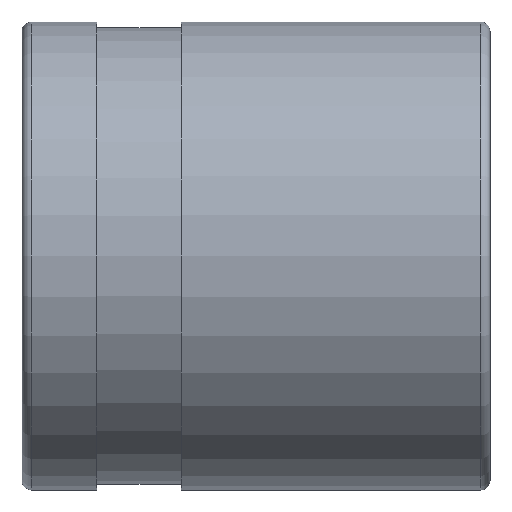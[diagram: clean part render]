
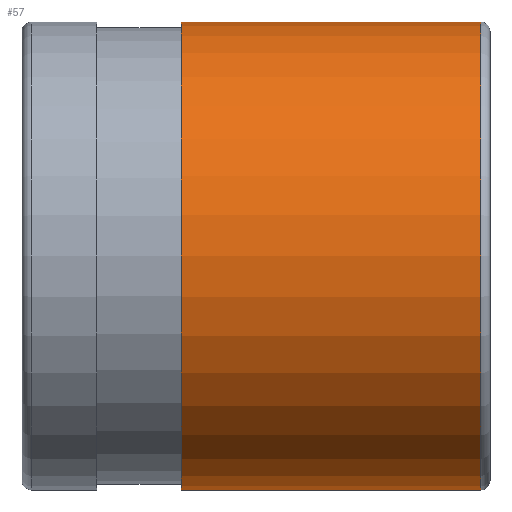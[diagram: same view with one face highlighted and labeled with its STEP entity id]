
A CAD part, left-side view. The second image highlights one B-rep face of the part: STEP entity #57.
In plain terms, the highlighted cylindrical face has radius 12.5 mm (diameter 25 mm), a full revolution.
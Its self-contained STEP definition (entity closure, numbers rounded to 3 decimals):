
#57=ADVANCED_FACE('',(#178,#180),#182,.T.);
#178=FACE_OUTER_BOUND('',#179,.T.);
#179=EDGE_LOOP('',(#240));
#180=FACE_OUTER_BOUND('',#181,.T.);
#181=EDGE_LOOP('',(#241));
#182=CYLINDRICAL_SURFACE('',#183,12.5);
#183=AXIS2_PLACEMENT_3D('',#184,#185,#186);
#184=CARTESIAN_POINT('',(0.,0.,0.));
#185=DIRECTION('',(0.,1.,0.));
#186=DIRECTION('',(-1.,0.,0.));
#240=ORIENTED_EDGE('',*,*,#263,.T.);
#241=ORIENTED_EDGE('',*,*,#261,.T.);
#261=EDGE_CURVE('',#291,#291,#292,.T.);
#263=EDGE_CURVE('',#295,#295,#296,.F.);
#291=VERTEX_POINT('',#364);
#292=CIRCLE('',#365,12.5);
#295=VERTEX_POINT('',#374);
#296=CIRCLE('',#375,12.5);
#364=CARTESIAN_POINT('',(-12.5,0.5,0.));
#365=AXIS2_PLACEMENT_3D('',#366,#367,#368);
#366=CARTESIAN_POINT('',(0.,0.5,0.));
#367=DIRECTION('',(0.,1.,0.));
#368=DIRECTION('',(-1.,0.,0.));
#374=CARTESIAN_POINT('',(-12.5,16.5,0.));
#375=AXIS2_PLACEMENT_3D('',#376,#377,#378);
#376=CARTESIAN_POINT('',(0.,16.5,0.));
#377=DIRECTION('',(0.,1.,0.));
#378=DIRECTION('',(-1.,0.,0.));
